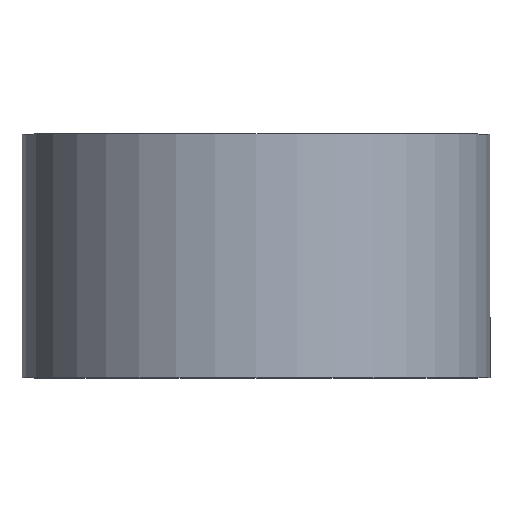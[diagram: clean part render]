
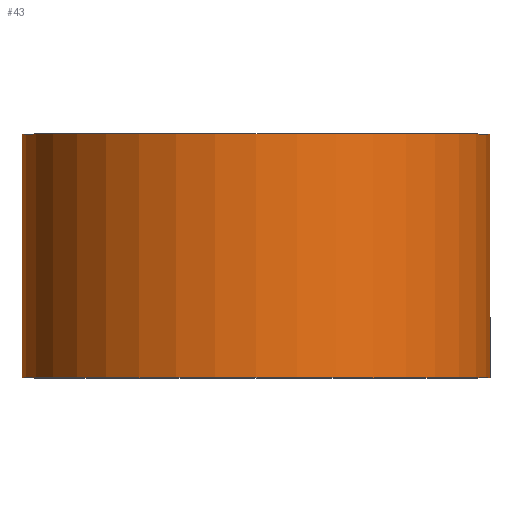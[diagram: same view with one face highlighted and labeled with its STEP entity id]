
A CAD part, top view. The second image highlights one B-rep face of the part: STEP entity #43.
In plain terms, the highlighted cylindrical face has radius 24 mm (diameter 48 mm), a partial arc.
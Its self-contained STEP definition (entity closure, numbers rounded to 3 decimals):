
#3 = VERTEX_POINT ( 'NONE', #183 ) ;
#10 = CARTESIAN_POINT ( 'NONE',  ( 0., 25., 0. ) ) ;
#15 = CARTESIAN_POINT ( 'NONE',  ( 0., 0., 0. ) ) ;
#18 = ORIENTED_EDGE ( 'NONE', *, *, #235, .F. ) ;
#19 = CARTESIAN_POINT ( 'NONE',  ( 0., 0., 0. ) ) ;
#23 = DIRECTION ( 'NONE',  ( -1., 0., 0. ) ) ;
#37 = CARTESIAN_POINT ( 'NONE',  ( 24., 25., 0. ) ) ;
#38 = AXIS2_PLACEMENT_3D ( 'NONE', #19, #258, #23 ) ;
#43 = ADVANCED_FACE ( 'NONE', ( #60 ), #122, .T. ) ;
#50 = LINE ( 'NONE', #52, #289 ) ;
#51 = VERTEX_POINT ( 'NONE', #185 ) ;
#52 = CARTESIAN_POINT ( 'NONE',  ( -24., 0., 0. ) ) ;
#57 = ORIENTED_EDGE ( 'NONE', *, *, #94, .F. ) ;
#60 = FACE_OUTER_BOUND ( 'NONE', #212, .T. ) ;
#71 = CARTESIAN_POINT ( 'NONE',  ( 24., 0., 0. ) ) ;
#87 = DIRECTION ( 'NONE',  ( 0., 1., 0. ) ) ;
#94 = EDGE_CURVE ( 'NONE', #130, #105, #211, .T. ) ;
#105 = VERTEX_POINT ( 'NONE', #37 ) ;
#122 = CYLINDRICAL_SURFACE ( 'NONE', #141, 24. ) ;
#130 = VERTEX_POINT ( 'NONE', #278 ) ;
#141 = AXIS2_PLACEMENT_3D ( 'NONE', #15, #179, #204 ) ;
#147 = EDGE_CURVE ( 'NONE', #3, #51, #242, .T. ) ;
#148 = ORIENTED_EDGE ( 'NONE', *, *, #147, .T. ) ;
#149 = AXIS2_PLACEMENT_3D ( 'NONE', #10, #246, #171 ) ;
#165 = DIRECTION ( 'NONE',  ( 0., 1., 0. ) ) ;
#171 = DIRECTION ( 'NONE',  ( -1., 0., 0. ) ) ;
#179 = DIRECTION ( 'NONE',  ( 0., 1., 0. ) ) ;
#183 = CARTESIAN_POINT ( 'NONE',  ( -24., 0., 0. ) ) ;
#185 = CARTESIAN_POINT ( 'NONE',  ( 24., 0., 0. ) ) ;
#200 = EDGE_CURVE ( 'NONE', #51, #105, #259, .T. ) ;
#204 = DIRECTION ( 'NONE',  ( -1., 0., 0. ) ) ;
#211 = CIRCLE ( 'NONE', #149, 24. ) ;
#212 = EDGE_LOOP ( 'NONE', ( #148, #260, #57, #18 ) ) ;
#235 = EDGE_CURVE ( 'NONE', #3, #130, #50, .T. ) ;
#242 = CIRCLE ( 'NONE', #38, 24. ) ;
#246 = DIRECTION ( 'NONE',  ( 0., 1., 0. ) ) ;
#258 = DIRECTION ( 'NONE',  ( 0., 1., 0. ) ) ;
#259 = LINE ( 'NONE', #71, #293 ) ;
#260 = ORIENTED_EDGE ( 'NONE', *, *, #200, .T. ) ;
#278 = CARTESIAN_POINT ( 'NONE',  ( -24., 25., 0. ) ) ;
#289 = VECTOR ( 'NONE', #165, 1000. ) ;
#293 = VECTOR ( 'NONE', #87, 1000. ) ;
